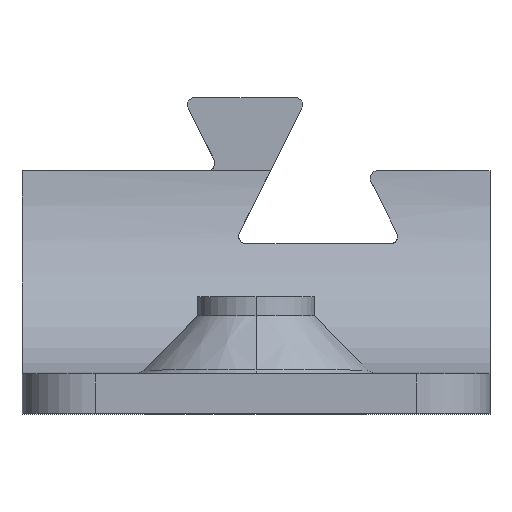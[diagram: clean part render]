
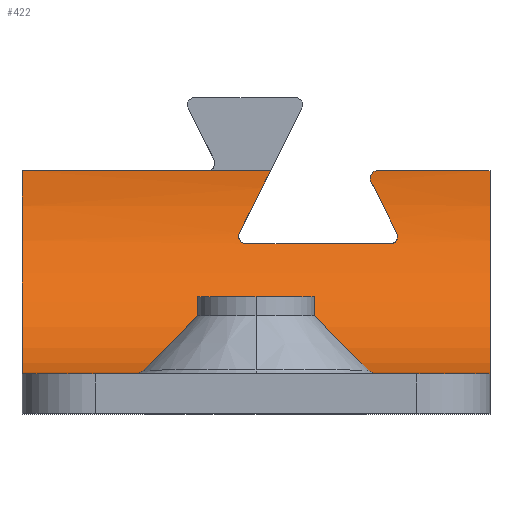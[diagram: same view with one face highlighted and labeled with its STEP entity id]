
A CAD part, top view. The second image highlights one B-rep face of the part: STEP entity #422.
In plain terms, the highlighted cylindrical face has radius 14 mm (diameter 28 mm), a partial arc.
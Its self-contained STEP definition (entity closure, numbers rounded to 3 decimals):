
#47 = CARTESIAN_POINT ( 'NONE',  ( -16., 2.7, -21.65 ) ) ;
#59 = CARTESIAN_POINT ( 'NONE',  ( -16., 16.7, -21.65 ) ) ;
#61 = VERTEX_POINT ( 'NONE', #107 ) ;
#68 = CARTESIAN_POINT ( 'NONE',  ( 8.309, 16.7, -35.65 ) ) ;
#87 = B_SPLINE_CURVE_WITH_KNOTS ( 'NONE', 3,
 ( #1043, #432, #522, #844, #1261, #312 ),
 .UNSPECIFIED., .F., .F.,
 ( 4, 2, 4 ),
 ( 0., 0., 0.001 ),
 .UNSPECIFIED. ) ;
#88 = CARTESIAN_POINT ( 'NONE',  ( 8.466, 14.767, -35.569 ) ) ;
#95 = DIRECTION ( 'NONE',  ( -1., 0., 0. ) ) ;
#104 = CARTESIAN_POINT ( 'NONE',  ( 9.638, 12.424, -34.981 ) ) ;
#107 = CARTESIAN_POINT ( 'NONE',  ( 9.638, 12.424, -34.981 ) ) ;
#108 = CARTESIAN_POINT ( 'NONE',  ( 16., 16.7, -35.65 ) ) ;
#127 = CARTESIAN_POINT ( 'NONE',  ( 9.706, 12.089, -34.87 ) ) ;
#132 = ORIENTED_EDGE ( 'NONE', *, *, #703, .F. ) ;
#133 = CARTESIAN_POINT ( 'NONE',  ( 9.367, 11.724, -34.736 ) ) ;
#157 = EDGE_CURVE ( 'NONE', #1032, #591, #1277, .T. ) ;
#169 = EDGE_CURVE ( 'NONE', #1105, #496, #1350, .T. ) ;
#170 = VERTEX_POINT ( 'NONE', #926 ) ;
#173 = DIRECTION ( 'NONE',  ( -1., 0., 0. ) ) ;
#198 = CARTESIAN_POINT ( 'NONE',  ( -1.191, 12.2, -34.907 ) ) ;
#203 = DIRECTION ( 'NONE',  ( -1., 0., 0. ) ) ;
#205 = AXIS2_PLACEMENT_3D ( 'NONE', #846, #95, #518 ) ;
#213 = CARTESIAN_POINT ( 'NONE',  ( 16., 11.7, -34.727 ) ) ;
#214 = CARTESIAN_POINT ( 'NONE',  ( 16., 2.7, -21.65 ) ) ;
#223 = AXIS2_PLACEMENT_3D ( 'NONE', #1195, #542, #1280 ) ;
#234 = CARTESIAN_POINT ( 'NONE',  ( 9.638, 12.424, -34.981 ) ) ;
#238 = EDGE_LOOP ( 'NONE', ( #1287, #1206, #820, #803, #1229, #289, #285, #240, #1367, #346, #132, #516 ) ) ;
#240 = ORIENTED_EDGE ( 'NONE', *, *, #319, .T. ) ;
#285 = ORIENTED_EDGE ( 'NONE', *, *, #660, .T. ) ;
#289 = ORIENTED_EDGE ( 'NONE', *, *, #804, .T. ) ;
#312 = CARTESIAN_POINT ( 'NONE',  ( -1.191, 12.2, -34.907 ) ) ;
#319 = EDGE_CURVE ( 'NONE', #170, #869, #1274, .T. ) ;
#331 = CARTESIAN_POINT ( 'NONE',  ( 16., 2.7, -21.65 ) ) ;
#346 = ORIENTED_EDGE ( 'NONE', *, *, #169, .T. ) ;
#352 = CARTESIAN_POINT ( 'NONE',  ( 9.578, 11.872, -34.791 ) ) ;
#388 = CARTESIAN_POINT ( 'NONE',  ( 7.973, 16.608, -35.65 ) ) ;
#397 = DIRECTION ( 'NONE',  ( -1., 0., 0. ) ) ;
#419 = FACE_OUTER_BOUND ( 'NONE', #238, .T. ) ;
#422 = ADVANCED_FACE ( 'NONE', ( #419 ), #1375, .F. ) ;
#432 = CARTESIAN_POINT ( 'NONE',  ( -0.827, 11.7, -34.727 ) ) ;
#464 = CARTESIAN_POINT ( 'NONE',  ( 9.191, 11.7, -34.727 ) ) ;
#496 = VERTEX_POINT ( 'NONE', #47 ) ;
#514 = LINE ( 'NONE', #937, #858 ) ;
#516 = ORIENTED_EDGE ( 'NONE', *, *, #805, .F. ) ;
#518 = DIRECTION ( 'NONE',  ( 0., 0., 1. ) ) ;
#522 = CARTESIAN_POINT ( 'NONE',  ( -0.959, 11.758, -34.749 ) ) ;
#542 = DIRECTION ( 'NONE',  ( -1., 0., 0. ) ) ;
#543 = VECTOR ( 'NONE', #173, 1000. ) ;
#554 = EDGE_CURVE ( 'NONE', #1186, #1032, #1115, .T. ) ;
#566 = EDGE_CURVE ( 'NONE', #1324, #1010, #1061, .T. ) ;
#569 = CARTESIAN_POINT ( 'NONE',  ( 9.28, 11.7, -34.727 ) ) ;
#591 = VERTEX_POINT ( 'NONE', #951 ) ;
#592 = CARTESIAN_POINT ( 'NONE',  ( -0.691, 11.7, -34.727 ) ) ;
#602 = CARTESIAN_POINT ( 'NONE',  ( 8.309, 16.7, -35.65 ) ) ;
#604 = EDGE_CURVE ( 'NONE', #591, #61, #899, .T. ) ;
#616 = VECTOR ( 'NONE', #634, 1000. ) ;
#634 = DIRECTION ( 'NONE',  ( -1., 0., 0. ) ) ;
#660 = EDGE_CURVE ( 'NONE', #1240, #170, #1355, .T. ) ;
#666 = CARTESIAN_POINT ( 'NONE',  ( 9.714, 12.271, -34.932 ) ) ;
#692 = DIRECTION ( 'NONE',  ( 0., 0., -1. ) ) ;
#699 = CARTESIAN_POINT ( 'NONE',  ( 1., 16.7, -35.65 ) ) ;
#703 = EDGE_CURVE ( 'NONE', #795, #496, #1047, .T. ) ;
#722 = CARTESIAN_POINT ( 'NONE',  ( 7.785, 16.129, -35.639 ) ) ;
#725 = DIRECTION ( 'NONE',  ( -1., 0., 0. ) ) ;
#731 = VECTOR ( 'NONE', #203, 1000. ) ;
#748 = CARTESIAN_POINT ( 'NONE',  ( 7.862, 15.976, -35.631 ) ) ;
#790 = CARTESIAN_POINT ( 'NONE',  ( 7.862, 15.976, -35.631 ) ) ;
#795 = VERTEX_POINT ( 'NONE', #214 ) ;
#798 = CARTESIAN_POINT ( 'NONE',  ( -0.446, 13.809, -35.425 ) ) ;
#803 = ORIENTED_EDGE ( 'NONE', *, *, #954, .T. ) ;
#804 = EDGE_CURVE ( 'NONE', #1010, #1240, #87, .T. ) ;
#805 = EDGE_CURVE ( 'NONE', #1186, #795, #1113, .T. ) ;
#820 = ORIENTED_EDGE ( 'NONE', *, *, #604, .T. ) ;
#842 = CARTESIAN_POINT ( 'NONE',  ( -1.191, 12.277, -34.933 ) ) ;
#844 = CARTESIAN_POINT ( 'NONE',  ( -1.14, 11.945, -34.818 ) ) ;
#846 = CARTESIAN_POINT ( 'NONE',  ( 16., 16.7, -21.65 ) ) ;
#853 = CARTESIAN_POINT ( 'NONE',  ( 9.062, 13.576, -35.351 ) ) ;
#858 = VECTOR ( 'NONE', #725, 1000. ) ;
#869 = VERTEX_POINT ( 'NONE', #1184 ) ;
#897 = B_SPLINE_CURVE_WITH_KNOTS ( 'NONE', 3,
 ( #234, #666, #127, #352, #1093, #133, #569, #993 ),
 .UNSPECIFIED., .F., .F.,
 ( 4, 2, 2, 4 ),
 ( 0., 0.001, 0.001, 0.001 ),
 .UNSPECIFIED. ) ;
#899 =( BOUNDED_CURVE ( )  B_SPLINE_CURVE ( 3, ( #748, #88, #853, #104 ),
 .UNSPECIFIED., .F., .T. ) 
 B_SPLINE_CURVE_WITH_KNOTS ( ( 4, 4 ),
 ( 1.623, 1.881 ),
 .UNSPECIFIED. ) 
 CURVE ( )  GEOMETRIC_REPRESENTATION_ITEM ( )  RATIONAL_B_SPLINE_CURVE ( ( 1., 0.994, 0.994, 1. ) ) 
 REPRESENTATION_ITEM ( '' )  );
#915 = CARTESIAN_POINT ( 'NONE',  ( 0.273, 15.246, -35.65 ) ) ;
#926 = CARTESIAN_POINT ( 'NONE',  ( -1.138, 12.424, -34.981 ) ) ;
#937 = CARTESIAN_POINT ( 'NONE',  ( 16., 16.7, -35.65 ) ) ;
#951 = CARTESIAN_POINT ( 'NONE',  ( 7.862, 15.976, -35.631 ) ) ;
#954 = EDGE_CURVE ( 'NONE', #61, #1324, #897, .T. ) ;
#963 = CARTESIAN_POINT ( 'NONE',  ( -1.138, 12.424, -34.981 ) ) ;
#993 = CARTESIAN_POINT ( 'NONE',  ( 9.191, 11.7, -34.727 ) ) ;
#1010 = VERTEX_POINT ( 'NONE', #592 ) ;
#1032 = VERTEX_POINT ( 'NONE', #602 ) ;
#1043 = CARTESIAN_POINT ( 'NONE',  ( -0.691, 11.7, -34.727 ) ) ;
#1047 = LINE ( 'NONE', #331, #616 ) ;
#1061 = LINE ( 'NONE', #213, #731 ) ;
#1081 = EDGE_CURVE ( 'NONE', #869, #1105, #514, .T. ) ;
#1093 = CARTESIAN_POINT ( 'NONE',  ( 9.516, 11.81, -34.768 ) ) ;
#1105 = VERTEX_POINT ( 'NONE', #1354 ) ;
#1113 = CIRCLE ( 'NONE', #223, 14. ) ;
#1115 = LINE ( 'NONE', #1352, #543 ) ;
#1121 = CARTESIAN_POINT ( 'NONE',  ( 7.794, 16.317, -35.646 ) ) ;
#1184 = CARTESIAN_POINT ( 'NONE',  ( 1., 16.7, -35.65 ) ) ;
#1186 = VERTEX_POINT ( 'NONE', #108 ) ;
#1195 = CARTESIAN_POINT ( 'NONE',  ( 16., 16.7, -21.65 ) ) ;
#1203 = AXIS2_PLACEMENT_3D ( 'NONE', #59, #397, #692 ) ;
#1204 = CARTESIAN_POINT ( 'NONE',  ( -1.138, 12.424, -34.981 ) ) ;
#1206 = ORIENTED_EDGE ( 'NONE', *, *, #157, .T. ) ;
#1229 = ORIENTED_EDGE ( 'NONE', *, *, #566, .T. ) ;
#1240 = VERTEX_POINT ( 'NONE', #1384 ) ;
#1261 = CARTESIAN_POINT ( 'NONE',  ( -1.191, 12.072, -34.864 ) ) ;
#1274 =( BOUNDED_CURVE ( )  B_SPLINE_CURVE ( 3, ( #1204, #798, #915, #699 ),
 .UNSPECIFIED., .F., .T. ) 
 B_SPLINE_CURVE_WITH_KNOTS ( ( 4, 4 ),
 ( 1.26, 1.571 ),
 .UNSPECIFIED. ) 
 CURVE ( )  GEOMETRIC_REPRESENTATION_ITEM ( )  RATIONAL_B_SPLINE_CURVE ( ( 1., 0.992, 0.992, 1. ) ) 
 REPRESENTATION_ITEM ( '' )  );
#1277 = B_SPLINE_CURVE_WITH_KNOTS ( 'NONE', 3,
 ( #68, #1317, #388, #1121, #722, #790 ),
 .UNSPECIFIED., .F., .F.,
 ( 4, 2, 4 ),
 ( 0., 0.001, 0.001 ),
 .UNSPECIFIED. ) ;
#1280 = DIRECTION ( 'NONE',  ( 0., 0., -1. ) ) ;
#1287 = ORIENTED_EDGE ( 'NONE', *, *, #554, .T. ) ;
#1317 = CARTESIAN_POINT ( 'NONE',  ( 8.138, 16.7, -35.65 ) ) ;
#1324 = VERTEX_POINT ( 'NONE', #464 ) ;
#1350 = CIRCLE ( 'NONE', #1203, 14. ) ;
#1352 = CARTESIAN_POINT ( 'NONE',  ( 16., 16.7, -35.65 ) ) ;
#1354 = CARTESIAN_POINT ( 'NONE',  ( -16., 16.7, -35.65 ) ) ;
#1355 = B_SPLINE_CURVE_WITH_KNOTS ( 'NONE', 3,
 ( #198, #842, #1381, #963 ),
 .UNSPECIFIED., .F., .F.,
 ( 4, 4 ),
 ( 0.001, 0.001 ),
 .UNSPECIFIED. ) ;
#1367 = ORIENTED_EDGE ( 'NONE', *, *, #1081, .T. ) ;
#1375 = CYLINDRICAL_SURFACE ( 'NONE', #205, 14. ) ;
#1381 = CARTESIAN_POINT ( 'NONE',  ( -1.173, 12.353, -34.958 ) ) ;
#1384 = CARTESIAN_POINT ( 'NONE',  ( -1.191, 12.2, -34.907 ) ) ;
